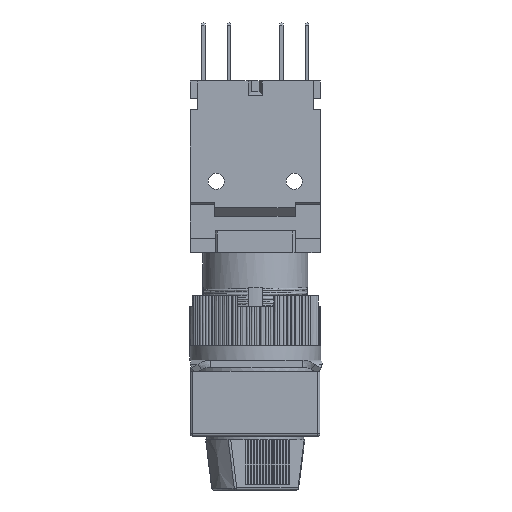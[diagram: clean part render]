
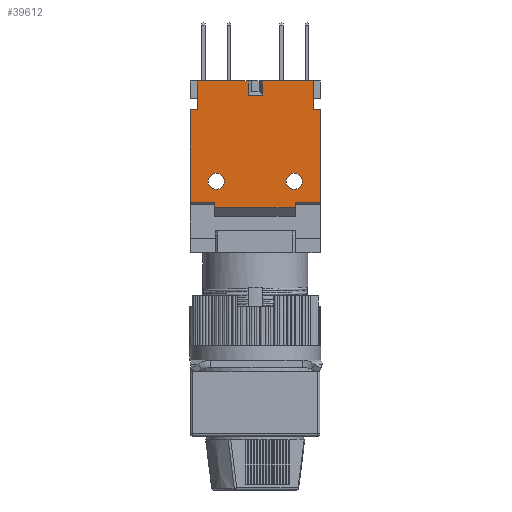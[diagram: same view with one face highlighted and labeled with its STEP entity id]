
A CAD part, front view. The second image highlights one B-rep face of the part: STEP entity #39612.
In plain terms, the highlighted planar face has unit normal (0, -1, 0).
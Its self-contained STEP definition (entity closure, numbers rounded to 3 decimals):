
#11257=DIRECTION('',(0.,0.,1.));
#11258=VECTOR('',#11257,4.);
#11259=CARTESIAN_POINT('',(17.1,0.05,-12.2));
#11260=LINE('',#11259,#11258);
#11341=DIRECTION('',(-1.,0.,0.));
#11342=VECTOR('',#11341,1.);
#11343=CARTESIAN_POINT('',(18.1,0.05,-12.2));
#11344=LINE('',#11343,#11342);
#11357=DIRECTION('',(1.,0.,0.));
#11358=VECTOR('',#11357,7.05);
#11359=CARTESIAN_POINT('',(10.05,0.05,-8.2));
#11360=LINE('',#11359,#11358);
#11361=DIRECTION('',(0.,0.,-1.));
#11362=VECTOR('',#11361,12.9);
#11363=CARTESIAN_POINT('',(18.1,0.05,-12.2));
#11364=LINE('',#11363,#11362);
#11365=DIRECTION('',(0.,0.,-1.));
#11366=VECTOR('',#11365,0.75);
#11367=CARTESIAN_POINT('',(14.6,0.05,-25.1));
#11368=LINE('',#11367,#11366);
#11369=DIRECTION('',(0.,0.,1.));
#11370=VECTOR('',#11369,12.9);
#11371=CARTESIAN_POINT('',(0.,0.05,-25.1));
#11372=LINE('',#11371,#11370);
#11373=DIRECTION('',(0.,0.,1.));
#11374=VECTOR('',#11373,4.);
#11375=CARTESIAN_POINT('',(1.,0.05,-12.2));
#11376=LINE('',#11375,#11374);
#11377=DIRECTION('',(1.,0.,0.));
#11378=VECTOR('',#11377,7.05);
#11379=CARTESIAN_POINT('',(1.,0.05,-8.2));
#11380=LINE('',#11379,#11378);
#11381=CARTESIAN_POINT('',(14.475,0.05,-22.165));
#11382=DIRECTION('',(0.,-1.,0.));
#11383=DIRECTION('',(-1.,0.,0.));
#11384=AXIS2_PLACEMENT_3D('',#11381,#11382,#11383);
#11386=CARTESIAN_POINT('',(14.475,0.05,-22.165));
#11387=DIRECTION('',(0.,-1.,0.));
#11388=DIRECTION('',(1.,0.,0.));
#11389=AXIS2_PLACEMENT_3D('',#11386,#11387,#11388);
#11391=CARTESIAN_POINT('',(3.625,0.05,-22.165));
#11392=DIRECTION('',(0.,-1.,0.));
#11393=DIRECTION('',(-1.,0.,0.));
#11394=AXIS2_PLACEMENT_3D('',#11391,#11392,#11393);
#11396=CARTESIAN_POINT('',(3.625,0.05,-22.165));
#11397=DIRECTION('',(0.,-1.,0.));
#11398=DIRECTION('',(1.,0.,0.));
#11399=AXIS2_PLACEMENT_3D('',#11396,#11397,#11398);
#11401=DIRECTION('',(0.,0.,-1.));
#11402=VECTOR('',#11401,2.);
#11403=CARTESIAN_POINT('',(10.05,0.05,-8.2));
#11404=LINE('',#11403,#11402);
#11405=DIRECTION('',(-1.,0.,0.));
#11406=VECTOR('',#11405,2.);
#11407=CARTESIAN_POINT('',(10.05,0.05,-10.2));
#11408=LINE('',#11407,#11406);
#11417=DIRECTION('',(0.,0.,1.));
#11418=VECTOR('',#11417,2.);
#11419=CARTESIAN_POINT('',(8.05,0.05,-10.2));
#11420=LINE('',#11419,#11418);
#11441=DIRECTION('',(1.,0.,0.));
#11442=VECTOR('',#11441,3.5);
#11443=CARTESIAN_POINT('',(14.6,0.05,-25.1));
#11444=LINE('',#11443,#11442);
#13386=DIRECTION('',(1.,0.,0.));
#13387=VECTOR('',#13386,3.4);
#13388=CARTESIAN_POINT('',(0.,0.05,-25.1));
#13389=LINE('',#13388,#13387);
#13398=DIRECTION('',(0.,0.,-1.));
#13399=VECTOR('',#13398,0.75);
#13400=CARTESIAN_POINT('',(3.4,0.05,-25.1));
#13401=LINE('',#13400,#13399);
#13406=DIRECTION('',(1.,0.,0.));
#13407=VECTOR('',#13406,11.2);
#13408=CARTESIAN_POINT('',(3.4,0.05,-25.85));
#13409=LINE('',#13408,#13407);
#13454=DIRECTION('',(-1.,0.,0.));
#13455=VECTOR('',#13454,1.);
#13456=CARTESIAN_POINT('',(1.,0.05,-12.2));
#13457=LINE('',#13456,#13455);
#18443=CARTESIAN_POINT('',(18.1,0.05,-25.1));
#18444=VERTEX_POINT('',#18443);
#18445=CARTESIAN_POINT('',(18.1,0.05,-12.2));
#18446=VERTEX_POINT('',#18445);
#18485=CARTESIAN_POINT('',(17.1,0.05,-8.2));
#18486=VERTEX_POINT('',#18485);
#18487=CARTESIAN_POINT('',(10.05,0.05,-8.2));
#18488=VERTEX_POINT('',#18487);
#18493=CARTESIAN_POINT('',(8.05,0.05,-8.2));
#18494=VERTEX_POINT('',#18493);
#18495=CARTESIAN_POINT('',(1.,0.05,-8.2));
#18496=VERTEX_POINT('',#18495);
#19745=CARTESIAN_POINT('',(14.6,0.05,-25.1));
#19746=CARTESIAN_POINT('',(14.6,0.05,-25.85));
#19747=VERTEX_POINT('',#19745);
#19748=VERTEX_POINT('',#19746);
#19853=CARTESIAN_POINT('',(0.,0.05,-12.2));
#19854=VERTEX_POINT('',#19853);
#19855=CARTESIAN_POINT('',(0.,0.05,-25.1));
#19857=VERTEX_POINT('',#19855);
#19882=CARTESIAN_POINT('',(1.,0.05,-12.2));
#19884=VERTEX_POINT('',#19882);
#19903=CARTESIAN_POINT('',(13.35,0.05,-22.165));
#19904=CARTESIAN_POINT('',(15.6,0.05,-22.165));
#19905=VERTEX_POINT('',#19903);
#19906=VERTEX_POINT('',#19904);
#19907=CARTESIAN_POINT('',(2.5,0.05,-22.165));
#19908=CARTESIAN_POINT('',(4.75,0.05,-22.165));
#19909=VERTEX_POINT('',#19907);
#19910=VERTEX_POINT('',#19908);
#19911=CARTESIAN_POINT('',(10.05,0.05,-10.2));
#19912=VERTEX_POINT('',#19911);
#19913=CARTESIAN_POINT('',(17.1,0.05,-12.2));
#19914=VERTEX_POINT('',#19913);
#19915=CARTESIAN_POINT('',(3.4,0.05,-25.85));
#19916=VERTEX_POINT('',#19915);
#19917=CARTESIAN_POINT('',(3.4,0.05,-25.1));
#19918=VERTEX_POINT('',#19917);
#19919=CARTESIAN_POINT('',(8.05,0.05,-10.2));
#19920=VERTEX_POINT('',#19919);
#39567=CARTESIAN_POINT('',(9.05,0.05,-17.025));
#39568=DIRECTION('',(0.,1.,0.));
#39569=DIRECTION('',(1.,0.,0.));
#39570=AXIS2_PLACEMENT_3D('',#39567,#39568,#39569);
#39571=PLANE('',#39570);
#39573=ORIENTED_EDGE('',*,*,#39572,.F.);
#39574=ORIENTED_EDGE('',*,*,#39279,.T.);
#39575=ORIENTED_EDGE('',*,*,#39424,.F.);
#39576=ORIENTED_EDGE('',*,*,#39559,.F.);
#39577=ORIENTED_EDGE('',*,*,#38983,.T.);
#39579=ORIENTED_EDGE('',*,*,#39578,.F.);
#39581=ORIENTED_EDGE('',*,*,#39580,.T.);
#39583=ORIENTED_EDGE('',*,*,#39582,.F.);
#39585=ORIENTED_EDGE('',*,*,#39584,.F.);
#39587=ORIENTED_EDGE('',*,*,#39586,.F.);
#39588=ORIENTED_EDGE('',*,*,#39116,.T.);
#39590=ORIENTED_EDGE('',*,*,#39589,.F.);
#39592=ORIENTED_EDGE('',*,*,#39591,.T.);
#39593=ORIENTED_EDGE('',*,*,#39287,.T.);
#39595=ORIENTED_EDGE('',*,*,#39594,.F.);
#39597=ORIENTED_EDGE('',*,*,#39596,.F.);
#39598=EDGE_LOOP('',(#39573,#39574,#39575,#39576,#39577,#39579,#39581,#39583,
#39585,#39587,#39588,#39590,#39592,#39593,#39595,#39597));
#39599=FACE_OUTER_BOUND('',#39598,.F.);
#39601=ORIENTED_EDGE('',*,*,#39600,.T.);
#39603=ORIENTED_EDGE('',*,*,#39602,.T.);
#39604=EDGE_LOOP('',(#39601,#39603));
#39605=FACE_BOUND('',#39604,.F.);
#39607=ORIENTED_EDGE('',*,*,#39606,.T.);
#39609=ORIENTED_EDGE('',*,*,#39608,.T.);
#39610=EDGE_LOOP('',(#39607,#39609));
#39611=FACE_BOUND('',#39610,.F.);
#39612=ADVANCED_FACE('',(#39599,#39605,#39611),#39571,.F.);
#11385=CIRCLE('',#11384,1.125);
#11390=CIRCLE('',#11389,1.125);
#11395=CIRCLE('',#11394,1.125);
#11400=CIRCLE('',#11399,1.125);
#38983=EDGE_CURVE('',#18446,#18444,#11364,.T.);
#39116=EDGE_CURVE('',#19857,#19854,#11372,.T.);
#39279=EDGE_CURVE('',#18488,#18486,#11360,.T.);
#39287=EDGE_CURVE('',#18496,#18494,#11380,.T.);
#39424=EDGE_CURVE('',#19914,#18486,#11260,.T.);
#39559=EDGE_CURVE('',#18446,#19914,#11344,.T.);
#39572=EDGE_CURVE('',#18488,#19912,#11404,.T.);
#39578=EDGE_CURVE('',#19747,#18444,#11444,.T.);
#39580=EDGE_CURVE('',#19747,#19748,#11368,.T.);
#39582=EDGE_CURVE('',#19916,#19748,#13409,.T.);
#39584=EDGE_CURVE('',#19918,#19916,#13401,.T.);
#39586=EDGE_CURVE('',#19857,#19918,#13389,.T.);
#39589=EDGE_CURVE('',#19884,#19854,#13457,.T.);
#39591=EDGE_CURVE('',#19884,#18496,#11376,.T.);
#39594=EDGE_CURVE('',#19920,#18494,#11420,.T.);
#39596=EDGE_CURVE('',#19912,#19920,#11408,.T.);
#39600=EDGE_CURVE('',#19905,#19906,#11385,.T.);
#39602=EDGE_CURVE('',#19906,#19905,#11390,.T.);
#39606=EDGE_CURVE('',#19909,#19910,#11395,.T.);
#39608=EDGE_CURVE('',#19910,#19909,#11400,.T.);
